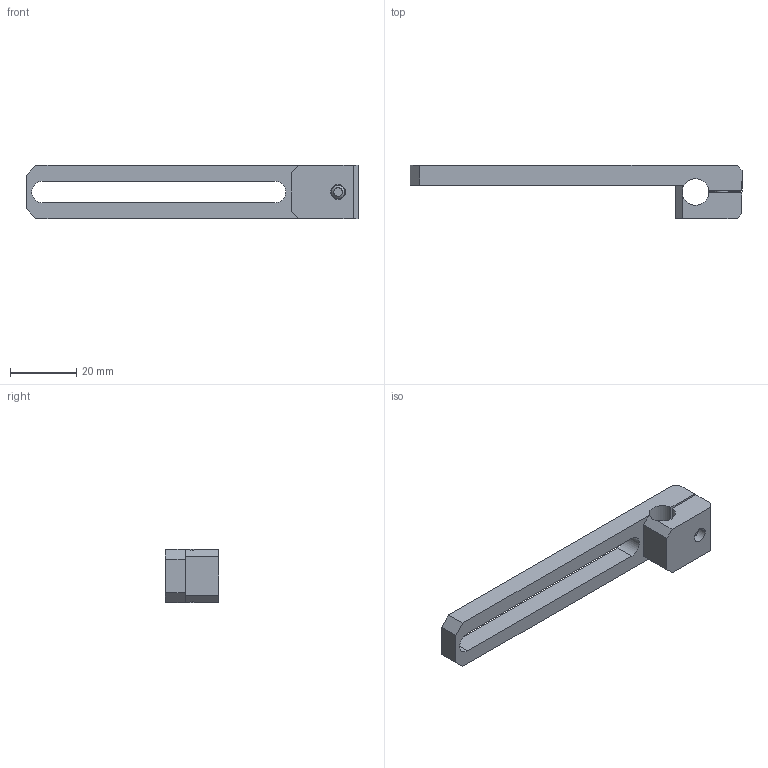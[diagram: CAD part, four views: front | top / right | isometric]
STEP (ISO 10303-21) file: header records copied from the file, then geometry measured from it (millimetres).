
FILE_DESCRIPTION (( 'STEP AP214' ), '1' );
FILE_NAME ('SCF5-0870W16T.STEP', '2023-01-17T08:15:10', ( 'Windows User' ), ( 'P R C' ), 'SwSTEP 2.0', 'SolidWorks 2019', '' );
FILE_SCHEMA (( 'AUTOMOTIVE_DESIGN' ));
Length unit declared in the file: millimetre
Products named in the file (1): SCF5-0870W16T
Bounding box: 100 x 16 x 16 mm (x, y, z)
Volume: 8697.7 mm3; surface area: 6382.7 mm2
Topology: 3 solids, 3 shells, 245 faces, 704 edges, 466 vertices
Faces by surface type: plane 224, cylinder 17, cone 2, bspline 2
Entity records: 10886 total; most frequent: CARTESIAN_POINT 1546, DIRECTION 1410, ORIENTED_EDGE 1408, EDGE_CURVE 704, LINE 474, VECTOR 474, AXIS2_PLACEMENT_3D 468, VERTEX_POINT 466
